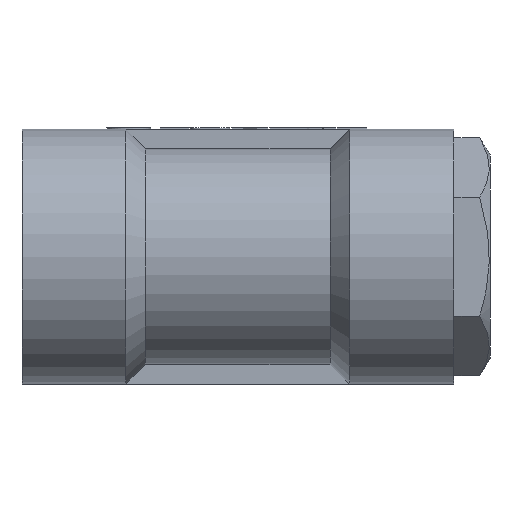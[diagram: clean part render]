
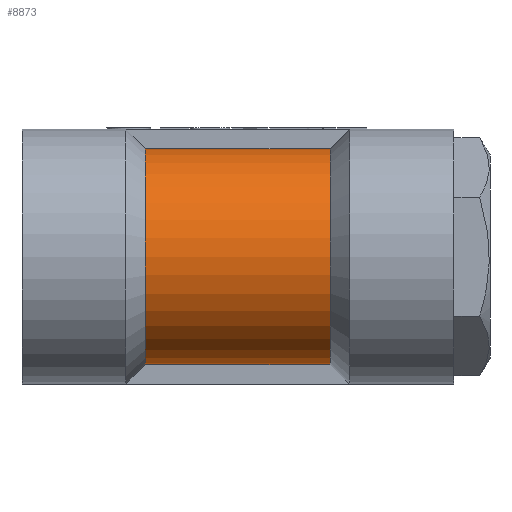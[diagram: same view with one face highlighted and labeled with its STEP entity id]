
A CAD part, front view. The second image highlights one B-rep face of the part: STEP entity #8873.
In plain terms, the highlighted cylindrical face has radius 11 mm (diameter 22 mm), a partial arc.
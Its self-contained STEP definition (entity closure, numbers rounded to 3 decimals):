
#468 = EDGE_CURVE ( 'NONE', #10258, #20050, #11605, .T. ) ;
#1379 = DIRECTION ( 'NONE',  ( -1., 0., 0. ) ) ;
#1672 = EDGE_CURVE ( 'NONE', #16348, #15831, #18895, .T. ) ;
#2119 = CARTESIAN_POINT ( 'NONE',  ( -26., 0., 0. ) ) ;
#2549 = CIRCLE ( 'NONE', #3295, 11. ) ;
#2988 = CARTESIAN_POINT ( 'NONE',  ( -13.423, 0., 0. ) ) ;
#3295 = AXIS2_PLACEMENT_3D ( 'NONE', #6217, #1379, #12671 ) ;
#4443 = CARTESIAN_POINT ( 'NONE',  ( -13.423, 0., 11. ) ) ;
#4491 = DIRECTION ( 'NONE',  ( 1., 0., 0. ) ) ;
#5815 = ORIENTED_EDGE ( 'NONE', *, *, #468, .F. ) ;
#6217 = CARTESIAN_POINT ( 'NONE',  ( 5.422, 0., 0. ) ) ;
#6435 = ORIENTED_EDGE ( 'NONE', *, *, #17340, .T. ) ;
#6962 = DIRECTION ( 'NONE',  ( -1., 0., 0. ) ) ;
#7425 = ORIENTED_EDGE ( 'NONE', *, *, #1672, .F. ) ;
#7436 = CIRCLE ( 'NONE', #19291, 11. ) ;
#7825 = DIRECTION ( 'NONE',  ( 0., 0., 1. ) ) ;
#8873 = ADVANCED_FACE ( 'NONE', ( #15367 ), #16738, .T. ) ;
#9243 = AXIS2_PLACEMENT_3D ( 'NONE', #2119, #6962, #10025 ) ;
#10025 = DIRECTION ( 'NONE',  ( 0., 0., 1. ) ) ;
#10258 = VERTEX_POINT ( 'NONE', #12746 ) ;
#11149 = CARTESIAN_POINT ( 'NONE',  ( 5.422, 0., 11. ) ) ;
#11605 = LINE ( 'NONE', #15151, #17729 ) ;
#11987 = EDGE_LOOP ( 'NONE', ( #5815, #18792, #7425, #6435 ) ) ;
#12543 = EDGE_CURVE ( 'NONE', #10258, #15831, #2549, .T. ) ;
#12671 = DIRECTION ( 'NONE',  ( 0., 0., -1. ) ) ;
#12746 = CARTESIAN_POINT ( 'NONE',  ( 5.422, 0., -11. ) ) ;
#14803 = DIRECTION ( 'NONE',  ( 1., 0., 0. ) ) ;
#14933 = DIRECTION ( 'NONE',  ( -1., 0., 0. ) ) ;
#15151 = CARTESIAN_POINT ( 'NONE',  ( -26., 0., -11. ) ) ;
#15367 = FACE_OUTER_BOUND ( 'NONE', #11987, .T. ) ;
#15831 = VERTEX_POINT ( 'NONE', #11149 ) ;
#16348 = VERTEX_POINT ( 'NONE', #4443 ) ;
#16738 = CYLINDRICAL_SURFACE ( 'NONE', #9243, 11. ) ;
#17340 = EDGE_CURVE ( 'NONE', #16348, #20050, #7436, .T. ) ;
#17729 = VECTOR ( 'NONE', #14933, 1000. ) ;
#17805 = CARTESIAN_POINT ( 'NONE',  ( -26., 0., 11. ) ) ;
#17984 = CARTESIAN_POINT ( 'NONE',  ( -13.423, 0., -11. ) ) ;
#18391 = VECTOR ( 'NONE', #14803, 1000. ) ;
#18792 = ORIENTED_EDGE ( 'NONE', *, *, #12543, .T. ) ;
#18895 = LINE ( 'NONE', #17805, #18391 ) ;
#19291 = AXIS2_PLACEMENT_3D ( 'NONE', #2988, #4491, #7825 ) ;
#20050 = VERTEX_POINT ( 'NONE', #17984 ) ;
